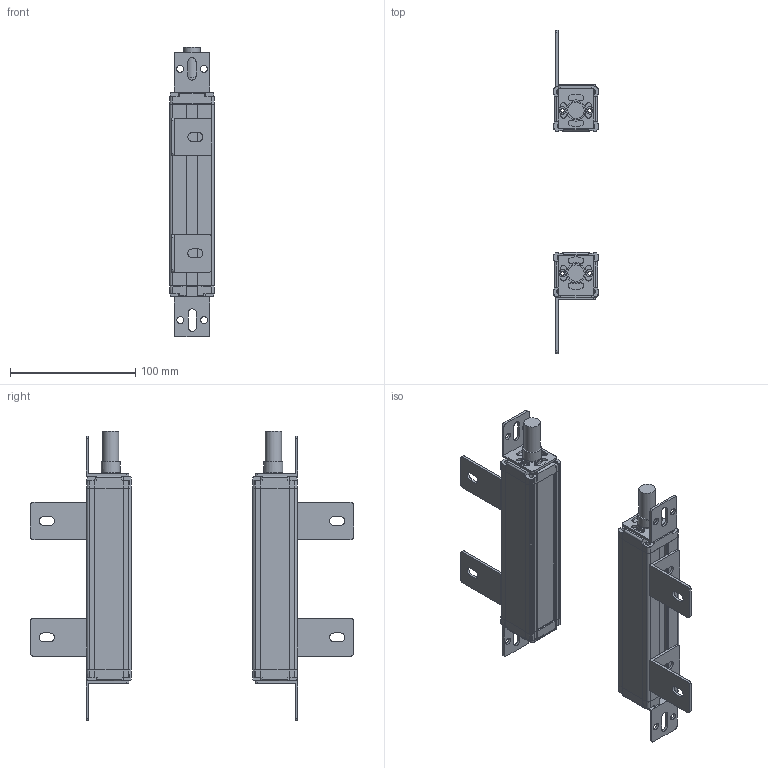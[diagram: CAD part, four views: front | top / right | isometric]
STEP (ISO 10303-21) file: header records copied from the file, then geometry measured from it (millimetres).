
FILE_DESCRIPTION(/* description */ (''),/* implementation_level */ '2;1');
FILE_NAME(/* name */ '1210_35X35_stp_stp.stp',/* time_stamp */ '2023-09-18T16:57:50+08:00',/* author */ (''),/* organization */ (''),/* preprocessor_version */ 'ST-DEVELOPER v16.7',/* originating_system */ 'SIEMENS PLM Software NX 12.0',/* authorisation */ '');
FILE_SCHEMA (('AP203_CONFIGURATION_CONTROLLED_3D_DESIGN_OF_MECHANICAL_PARTS_AND_ASSEMBLIES_MIM_LF { 1 0 10303 403 2 1 2}'));
Length unit declared in the file: millimetre
Products named in the file (1): 0420_35X35_stp_stp
Bounding box: 35.41 x 258.01 x 231.6 mm (x, y, z)
Volume: 201855.2 mm3; surface area: 162263.8 mm2
Topology: 28 solids, 28 shells, 1182 faces, 3360 edges, 2260 vertices
Faces by surface type: plane 658, cylinder 464, cone 60
Full cylindrical faces by diameter (mm): 3.2 x8, 6 x24, 13 x2, 14.4 x2, 15 x2
Entity records: 39055 total; most frequent: DIRECTION 6832, CARTESIAN_POINT 6745, ORIENTED_EDGE 6612, EDGE_CURVE 3306, AXIS2_PLACEMENT_3D 2347, VERTEX_POINT 2244, LINE 2138, VECTOR 2138
